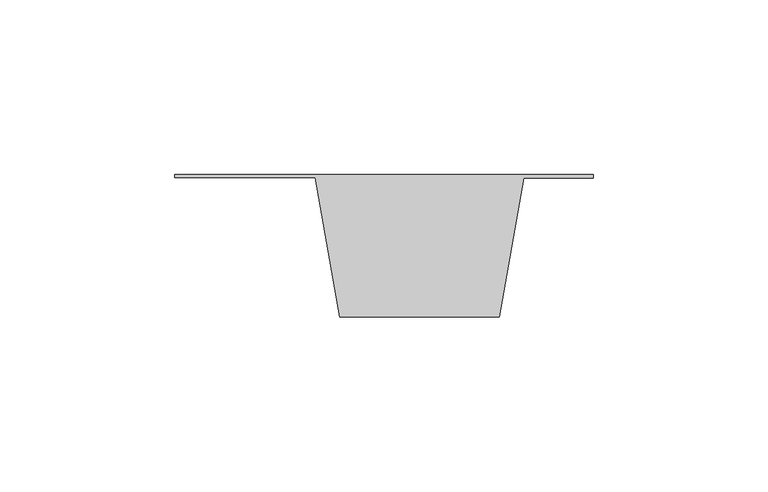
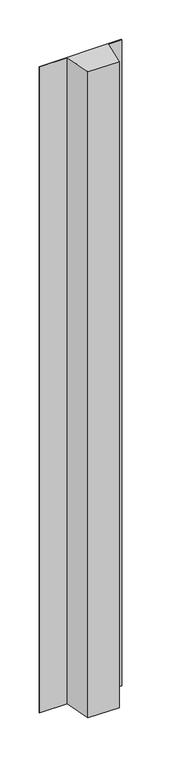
"""IFC4 building model written with IfcOpenShell, lengths in millimetres: plate geometry, ATELIERS 3S_NEW YORK MANHATTAN 780_VERTICAL : AZURO."""

from ifc_helpers import new_model, si_unit, origin, origin_with_axes, place, context, project, spatial, polyline, outline, extrude, source, transform, mapped, element, save


def plate_3b774efe(model_context):
    return source(origin(), model_context, "Body", "SweptSolid", [
        extrude(outline(polyline([(-19.730791, -0.864757), (-60.0000002, -0.864757), (-60.0000002, 0.0), (59.9999998, 0.0), (59.9999998, -1.0), (39.9808452, -1.0), (32.9516129, -40.864757), (-12.6777118, -40.864757), (-19.730791, -0.864757)])), origin_with_axes(), (0.0, 0.0, 1.0), 1000.0),
    ])


if __name__ == "__main__":
    model = new_model("IFC4")
    model_context = context("Model", 3, world=origin())
    ifc_project = project(units=[si_unit("LENGTHUNIT", "METRE", prefix="MILLI")], contexts=[model_context])
    site = spatial("IfcSite", under=ifc_project)
    building = spatial("IfcBuilding", under=site)
    placement = place(None, origin())
    plate_shape = plate_3b774efe(model_context)
    element("IfcPlate", 1, ObjectType="ATELIERS 3S_NEW YORK MANHATTAN 780_VERTICAL : AZURO", at=placement, inside=building, context=model_context, shape_type="MappedRepresentation", body=[
        mapped(plate_shape, transform((0.0, 0.0, 0.0), x_axis=(1.0, 0.0, 0.0), y_axis=(0.0, 1.0, 0.0), z_axis=(0.0, 0.0, 1.0))),
    ])
    save(model, "model.ifc")
